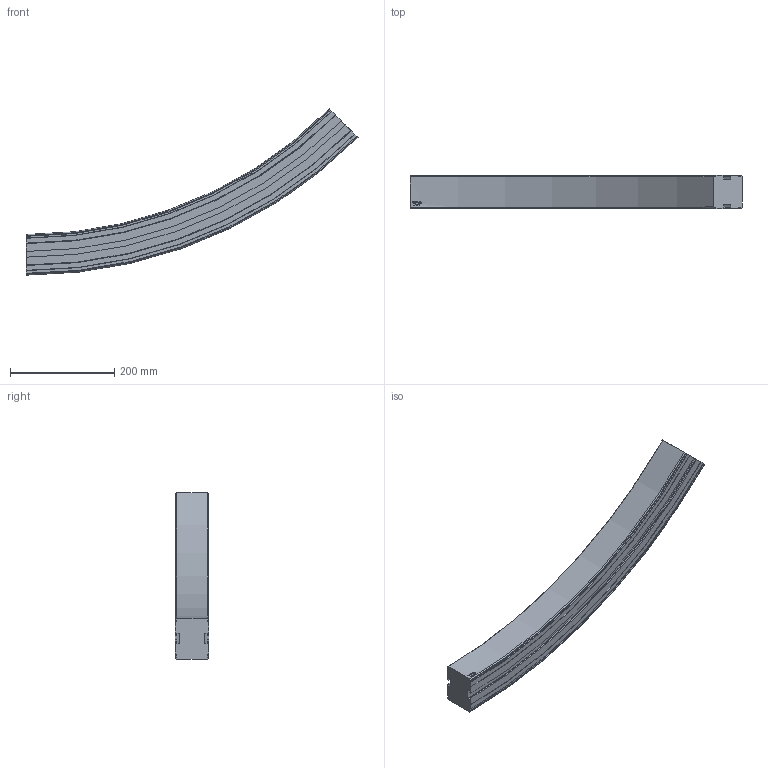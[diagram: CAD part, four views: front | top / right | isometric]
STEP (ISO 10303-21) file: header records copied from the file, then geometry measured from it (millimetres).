
FILE_DESCRIPTION((''),'2;1');
FILE_NAME('C:\Vault Klient\Projekt\Koncept konstruktion\Serie 620 Balk\620-5670_UP.stp','2009-11-27T07:33:05',('Mathias'),(''),'Autodesk Inventor 2010','Autodesk Inventor 2010','');
FILE_SCHEMA(('AUTOMOTIVE_DESIGN { 1 0 10303 214 1 1 1 1 }'));
Length unit declared in the file: millimetre
Products named in the file (1): 620-5670_UP
Bounding box: 636.4 x 64 x 318.76 mm (x, y, z)
Volume: 3144717.2 mm3; surface area: 253035.7 mm2
Topology: 1 solids, 1 shells, 93 faces, 258 edges, 172 vertices
Faces by surface type: plane 40, cylinder 23, bspline 14, cone 12, torus 4
Entity records: 3437 total; most frequent: CARTESIAN_POINT 1002, ORIENTED_EDGE 516, DIRECTION 472, EDGE_CURVE 258, VERTEX_POINT 172, AXIS2_PLACEMENT_3D 162, VECTOR 148, LINE 148
